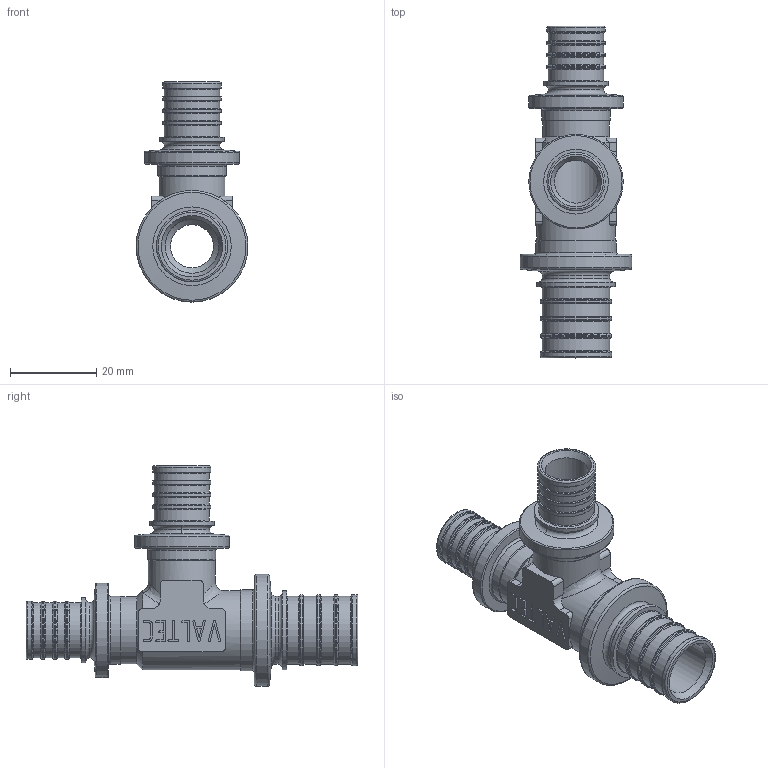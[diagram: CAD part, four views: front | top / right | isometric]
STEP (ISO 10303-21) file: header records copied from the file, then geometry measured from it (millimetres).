
FILE_DESCRIPTION(('STEP AP203'), '1');
FILE_NAME('覆.752241.006 - VTm.431.G.201616 秮鍣. 縺鳱', '', ('UNSPECIFIED'), ('UNSPECIFIED'), 'C3D Converter', 'C3D Toolkit', '');
FILE_SCHEMA(('CONFIG_CONTROL_DESIGN'));
Length unit declared in the file: millimetre
Products named in the file (1): ВР.752241.006
Bounding box: 25.9 x 76.9 x 51.05 mm (x, y, z)
Volume: 12965 mm3; surface area: 11278.8 mm2
Topology: 1 solids, 1 shells, 405 faces, 1025 edges, 652 vertices
Faces by surface type: extrusion 142, plane 131, cylinder 58, torus 58, cone 11, bspline 5
Full cylindrical faces by diameter (mm): 10 x2, 12.5 x1, 12.8 x8, 13.5 x8, 15 x2, 15.5 x2, 15.7 x5, 15.8 x2, 16.5 x4, 18.2 x1, 18.3 x1, 18.7 x1, 21.9 x2, 25.9 x1
Entity records: 16394 total; most frequent: CARTESIAN_POINT 4314, ORIENTED_EDGE 1840, DIRECTION 1422, EDGE_CURVE 920, VERTEX_POINT 652, VECTOR 582, EDGE_LOOP 544, B_SPLINE_CURVE_WITH_KNOTS 461
